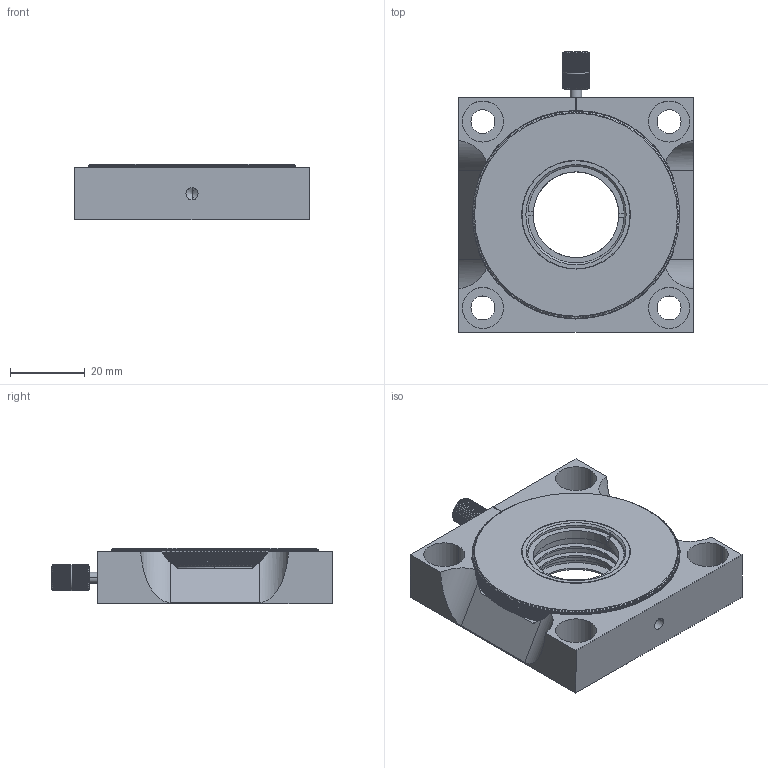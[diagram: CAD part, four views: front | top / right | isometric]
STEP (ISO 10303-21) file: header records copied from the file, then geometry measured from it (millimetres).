
FILE_DESCRIPTION (( 'STEP AP214' ), '1' );
FILE_NAME ('5PHH50-1.STEP', '2009-10-14T07:59:00', ( 'ramunas' ), ( '' ), 'SwSTEP 2.0', 'SolidWorks 2003240', '' );
FILE_SCHEMA (( 'AUTOMOTIVE_DESIGN' ));
Products named in the file (1): 5PHH50-1
Bounding box: 63 x 75.22 x 15 mm (x, y, z)
Volume: 37743.2 mm3; surface area: 23307.3 mm2
Topology: 1 solids, 4 shells, 1703 faces, 4912 edges, 3233 vertices
Faces by surface type: plane 1150, cylinder 525, cone 28
Entity records: 57729 total; most frequent: CARTESIAN_POINT 15800, ORIENTED_EDGE 9812, DIRECTION 7524, EDGE_CURVE 4906, VERTEX_POINT 3233, AXIS2_PLACEMENT_3D 2861, B_SPLINE_CURVE_WITH_KNOTS 1934, LINE 1802
